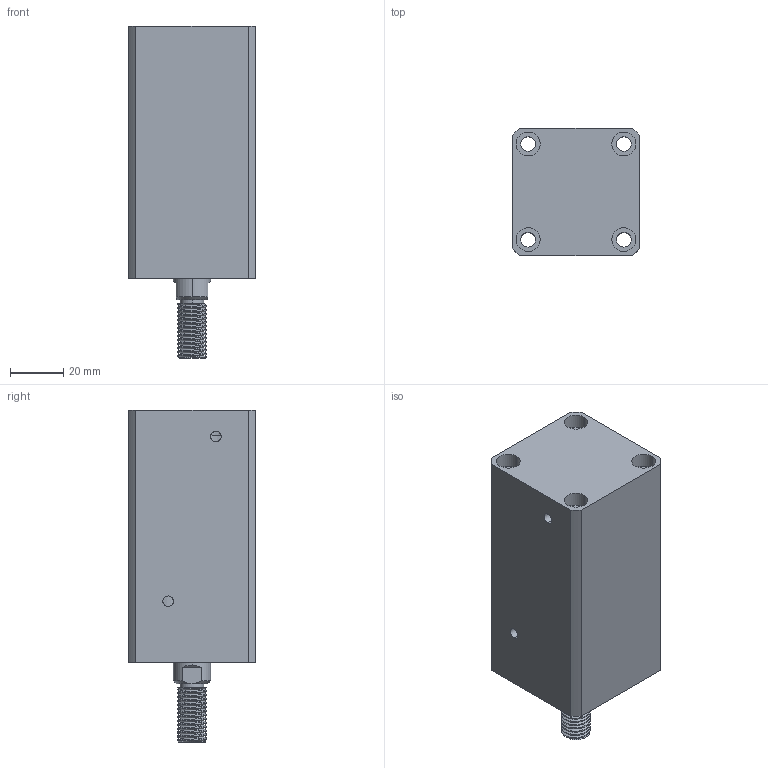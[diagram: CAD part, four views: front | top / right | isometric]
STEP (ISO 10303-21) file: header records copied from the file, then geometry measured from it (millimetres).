
FILE_DESCRIPTION (( 'STEP AP214' ), '1' );
FILE_NAME ('chtb-sdma25x50w_asm.STEP', '2018-05-22T07:36:10', ( 'Windows' ), ( 'Microsoft' ), 'SwSTEP 2.0', 'SolidWorks 2015', '' );
FILE_SCHEMA (( 'AUTOMOTIVE_DESIGN' ));
Length unit declared in the file: millimetre
Products named in the file (4): chtb-sdma25x50w_asm; CHTB-SDMA25X50WHSG; CHTB-SDMA25X50NBT; CHTB-25QG
Assembly tree (3 placements, depth 2):
  chtb-sdma25x50w_asm
    CHTB-25QG
    CHTB-SDMA25X50NBT
    CHTB-SDMA25X50WHSG
Bounding box: 48 x 48 x 125 mm (x, y, z)
Volume: 190585.6 mm3; surface area: 49731.1 mm2
Topology: 3 solids, 3 shells, 177 faces, 479 edges, 325 vertices
Faces by surface type: cylinder 117, plane 38, bspline 12, cone 10
Entity records: 10676 total; most frequent: CARTESIAN_POINT 6329, ORIENTED_EDGE 950, DIRECTION 772, EDGE_CURVE 475, VERTEX_POINT 325, AXIS2_PLACEMENT_3D 312, EDGE_LOOP 216, FACE_OUTER_BOUND 177
